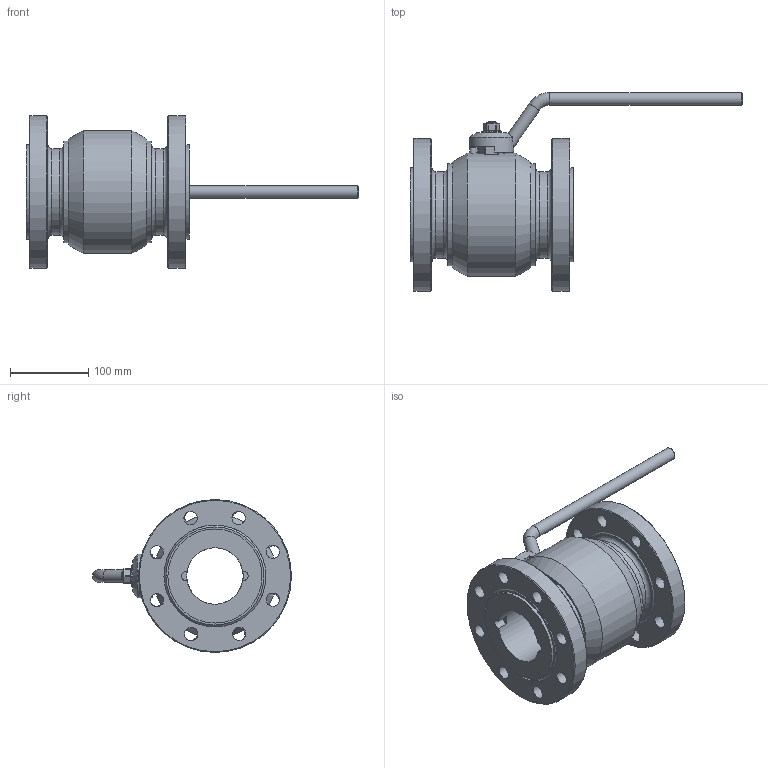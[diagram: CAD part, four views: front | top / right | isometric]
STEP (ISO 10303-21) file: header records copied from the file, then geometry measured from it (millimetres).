
FILE_DESCRIPTION(('STEP AP203'), '1');
FILE_NAME('ZARD 080.040.22.P.stp', '2013-12-06T11:20:28', ('Ñèçîâ À.Í.'), ('ÎÎÎ "ÈÊ Ýíåðïðåä-ßðäîñ"'), 'ASCON STEP Converter 1.3', 'Kompas 3D', '');
FILE_SCHEMA(('CONFIG_CONTROL_DESIGN','SUPPORT_RESOURCE_SCHEMA'));
Length unit declared in the file: millimetre
Products named in the file (1): 257
Bounding box: 423.31 x 253.5 x 195 mm (x, y, z)
Volume: 2559925.8 mm3; surface area: 314440 mm2
Topology: 1 solids, 3 shells, 177 faces, 419 edges, 265 vertices
Faces by surface type: cylinder 70, plane 59, cone 36, torus 12
Full cylindrical faces by diameter (mm): 8 x2, 12 x2, 16 x2, 17 x16, 22 x1, 24 x2, 24.1 x1, 26 x1, 31.8 x1, 32 x1, 35 x1, 56 x1, 72 x2, 110 x2, 117.8 x1, 120 x2, 130 x6, 157 x1, 195 x2
Entity records: 6868 total; most frequent: CARTESIAN_POINT 2525, DIRECTION 932, ORIENTED_EDGE 838, EDGE_CURVE 419, AXIS2_PLACEMENT_3D 386, VERTEX_POINT 265, EDGE_LOOP 240, CIRCLE 208
